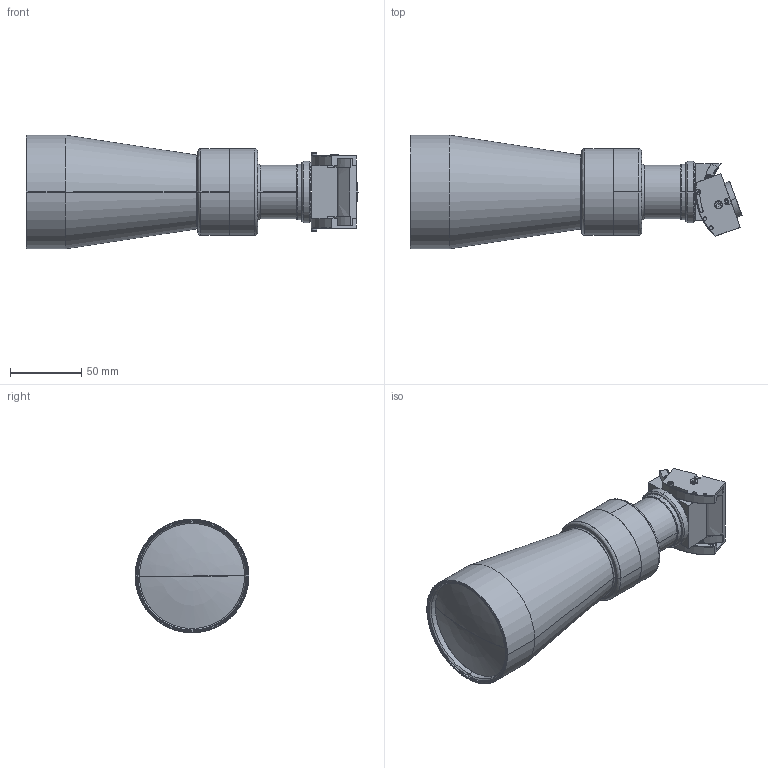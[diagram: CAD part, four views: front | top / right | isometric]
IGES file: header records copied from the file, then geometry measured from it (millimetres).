
Start section: SolidWorks IGES file using analytic representation for surfaces
Global section: file name: \\172.16.20.198\dati\R&D\01 archivio\DPXXXXX-X\DP50164-A_TCSM056.igs; native system: SolidWorks 2021; preprocessor: SolidWorks 2021; author: lrizzotto; date: 211203.144656; units: millimetre
Bounding box: 233.55 x 80 x 80 mm (x, y, z)
Surface area: 72358.2 mm2 (no closed solid volume)
Topology: 0 solids, 0 shells, 347 faces, 5361 edges, 5350 vertices
Faces by surface type: bspline 193, revolution 154
